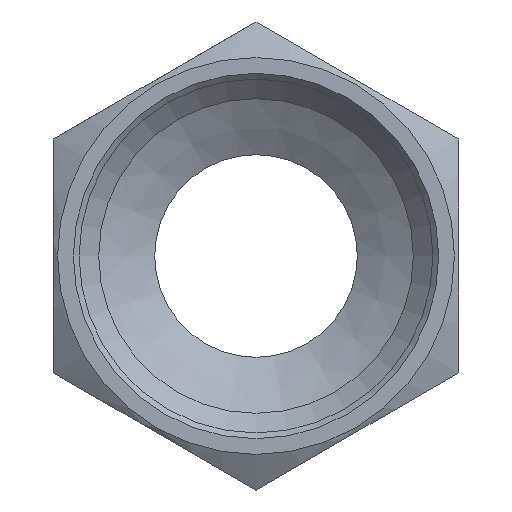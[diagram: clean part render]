
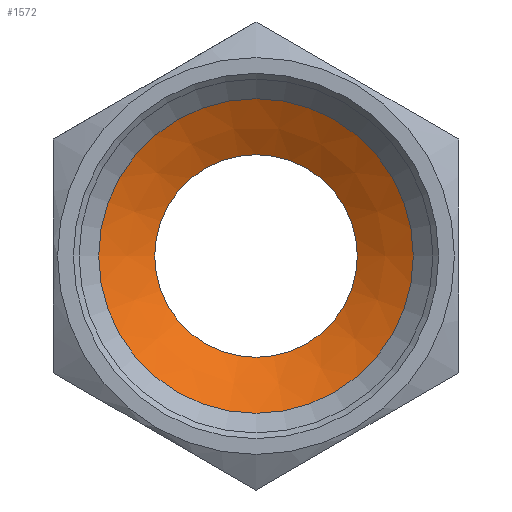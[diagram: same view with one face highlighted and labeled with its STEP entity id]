
A CAD part, left-side view. The second image highlights one B-rep face of the part: STEP entity #1572.
In plain terms, the highlighted conical face has half-angle 60 degrees and reference radius 9.316 mm.
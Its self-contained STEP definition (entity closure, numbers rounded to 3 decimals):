
#715=CONICAL_SURFACE('',#1496,9.315,60.);
#774=ORIENTED_EDGE('',*,*,#950,.F.);
#775=ORIENTED_EDGE('',*,*,#951,.F.);
#849=CIRCLE('',#1495,9.315);
#850=CIRCLE('',#1497,6.);
#897=VERTEX_POINT('',#1381);
#898=VERTEX_POINT('',#1384);
#950=EDGE_CURVE('',#897,#897,#849,.T.);
#951=EDGE_CURVE('',#898,#898,#850,.T.);
#997=EDGE_LOOP('',(#774));
#998=EDGE_LOOP('',(#775));
#1061=FACE_BOUND('',#997,.F.);
#1062=FACE_BOUND('',#998,.F.);
#1199=DIRECTION('',(-1.,0.,0.));
#1200=DIRECTION('',(0.,0.,-9.315));
#1201=DIRECTION('',(-1.,0.,0.));
#1202=DIRECTION('',(0.,1.,0.));
#1203=DIRECTION('',(1.,0.,0.));
#1204=DIRECTION('',(0.,0.,-6.));
#1381=CARTESIAN_POINT('',(25.393,36.967,-9.315));
#1382=CARTESIAN_POINT('',(25.393,36.967,0.));
#1383=CARTESIAN_POINT('',(25.393,36.967,0.));
#1384=CARTESIAN_POINT('',(27.308,36.967,-6.));
#1385=CARTESIAN_POINT('',(27.308,36.967,0.));
#1495=AXIS2_PLACEMENT_3D('',#1382,#1199,#1200);
#1496=AXIS2_PLACEMENT_3D('',#1383,#1201,#1202);
#1497=AXIS2_PLACEMENT_3D('',#1385,#1203,#1204);
#1572=ADVANCED_FACE('',(#1061,#1062),#715,.F.);
